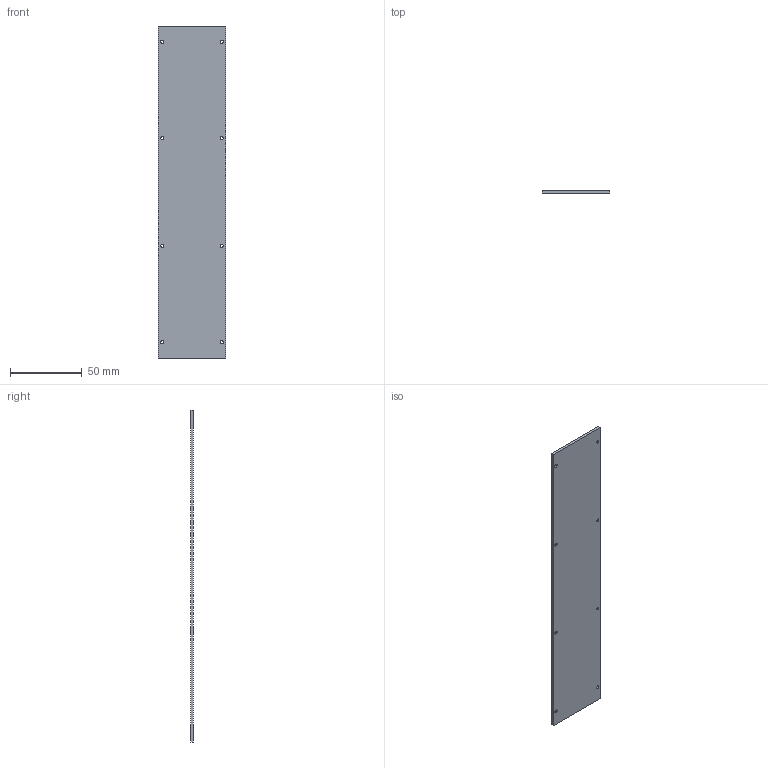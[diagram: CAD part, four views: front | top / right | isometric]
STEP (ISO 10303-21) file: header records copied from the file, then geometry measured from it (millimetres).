
FILE_DESCRIPTION (( 'STEP AP214' ), '1' );
FILE_NAME ('LSN6-00-225-1-X-24V-DIFFUSER LINE.STEP', '2022-05-11T09:26:26', ( '' ), ( '' ), 'SwSTEP 2.0', 'SolidWorks 2021', '' );
FILE_SCHEMA (( 'AUTOMOTIVE_DESIGN' ));
Length unit declared in the file: millimetre
Products named in the file (1): LSN6-00-225-1-X-24V-DIFFUSER LINE
Bounding box: 46.6 x 1.8 x 230.8 mm (x, y, z)
Volume: 19304.8 mm3; surface area: 22547.9 mm2
Topology: 1 solids, 1 shells, 22 faces, 60 edges, 40 vertices
Faces by surface type: cylinder 16, plane 6
Entity records: 782 total; most frequent: DIRECTION 138, CARTESIAN_POINT 123, ORIENTED_EDGE 120, EDGE_CURVE 60, AXIS2_PLACEMENT_3D 55, VERTEX_POINT 40, EDGE_LOOP 38, CIRCLE 32
